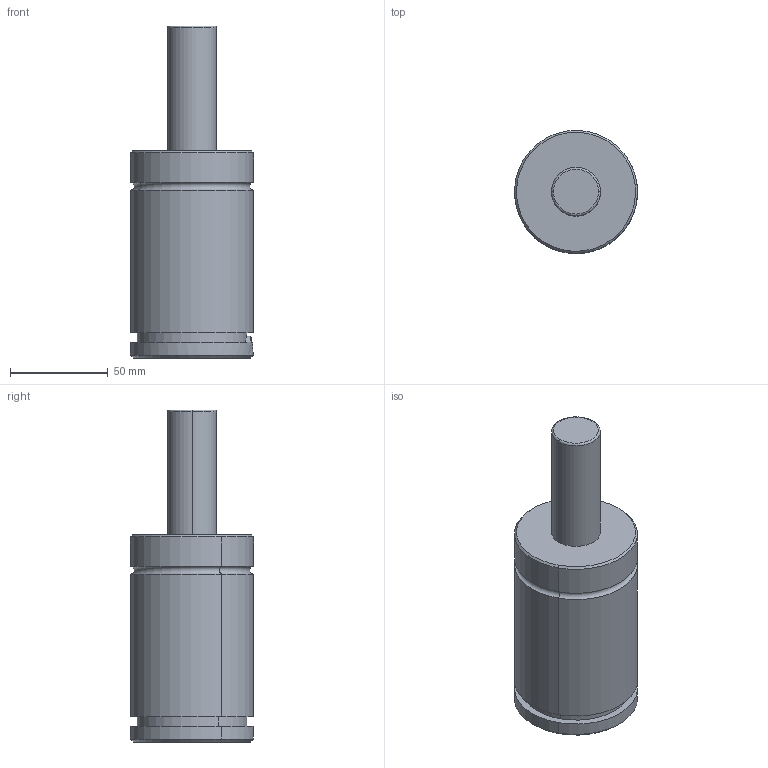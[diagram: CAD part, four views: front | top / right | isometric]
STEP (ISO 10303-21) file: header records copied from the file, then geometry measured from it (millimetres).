
FILE_DESCRIPTION(('FreeCAD Model'),'2;1');
FILE_NAME('Open CASCADE Shape Model','2024-11-12T16:13:22',('Author'),( ''),'Open CASCADE STEP processor 7.6','FreeCAD','Unknown');
FILE_SCHEMA(('AUTOMOTIVE_DESIGN { 1 0 10303 214 1 1 1 1 }'));
Length unit declared in the file: millimetre
Products named in the file (2): Part001; Cut
Assembly tree (1 placements, depth 2):
  Part001
    Cut
Bounding box: 62.98 x 62.98 x 170 mm (x, y, z)
Volume: 354726.1 mm3; surface area: 34847.4 mm2
Topology: 1 solids, 1 shells, 68 faces, 153 edges, 92 vertices
Faces by surface type: cylinder 27, plane 19, cone 16, torus 6
Full cylindrical faces by diameter (mm): 8 x4
Entity records: 2027 total; most frequent: CARTESIAN_POINT 466, DIRECTION 340, ORIENTED_EDGE 298, EDGE_CURVE 149, AXIS2_PLACEMENT_3D 141, VERTEX_POINT 92, FACE_BOUND 79, EDGE_LOOP 79
